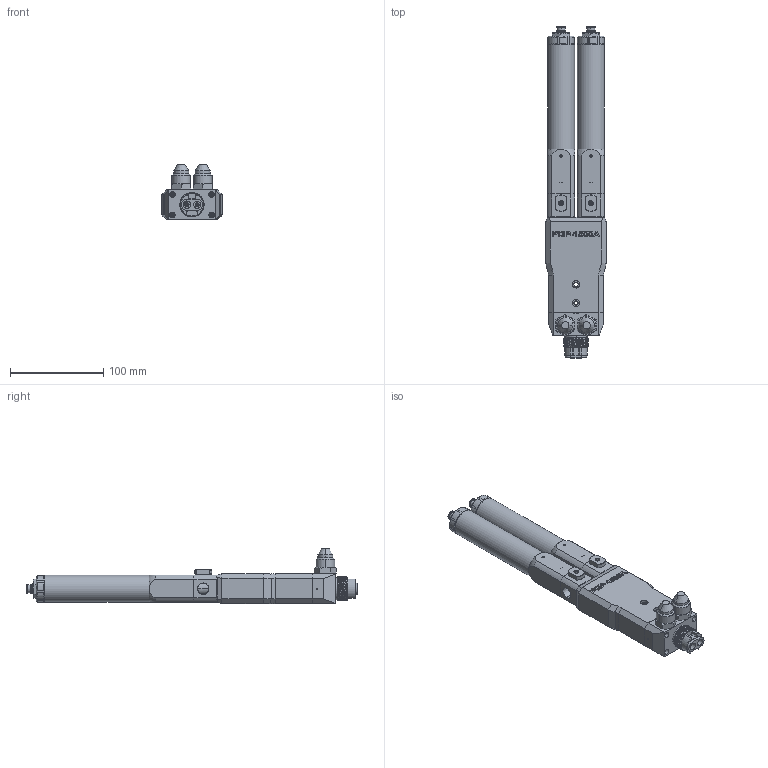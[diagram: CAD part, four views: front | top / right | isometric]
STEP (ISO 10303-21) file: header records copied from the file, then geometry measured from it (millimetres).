
FILE_DESCRIPTION (( 'STEP AP214' ), '1' );
FILE_NAME ('PDP-1500-1000FA.STEP', '2024-10-11T12:30:24', ( '' ), ( '' ), 'SwSTEP 2.0', 'SolidWorks 2024', '' );
FILE_SCHEMA (( 'AUTOMOTIVE_DESIGN' ));
Length unit declared in the file: millimetre
Products named in the file (1): PDP-1500-1000FA
Bounding box: 65 x 356 x 59.3 mm (x, y, z)
Volume: 530163.8 mm3; surface area: 128040 mm2
Topology: 12 solids, 12 shells, 1581 faces, 4021 edges, 2564 vertices
Faces by surface type: plane 770, cylinder 462, cone 307, bspline 22, torus 12, sphere 8
Full cylindrical faces by diameter (mm): 29 x2
Entity records: 60127 total; most frequent: CARTESIAN_POINT 22069, ORIENTED_EDGE 7982, DIRECTION 7796, EDGE_CURVE 3991, AXIS2_PLACEMENT_3D 2779, VERTEX_POINT 2564, LINE 2238, VECTOR 2238
